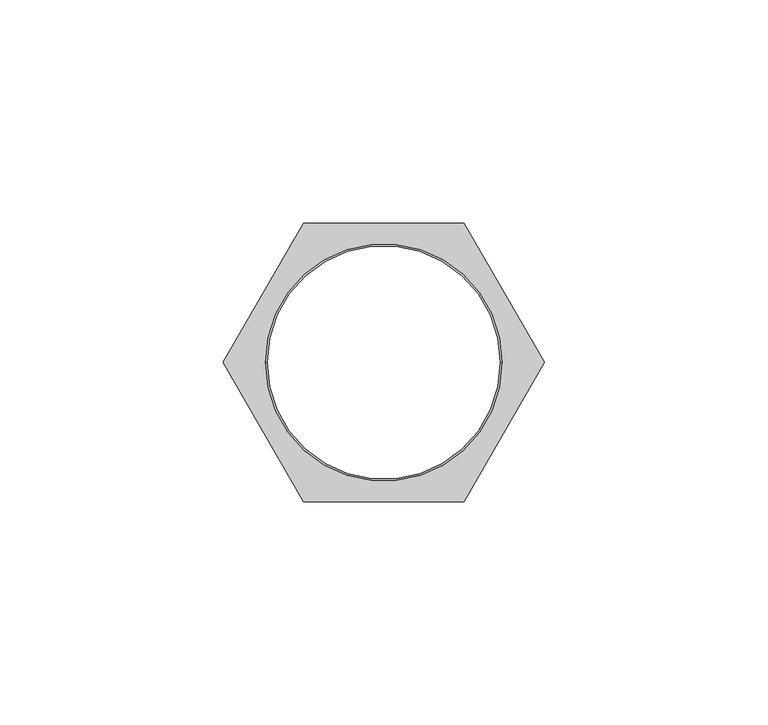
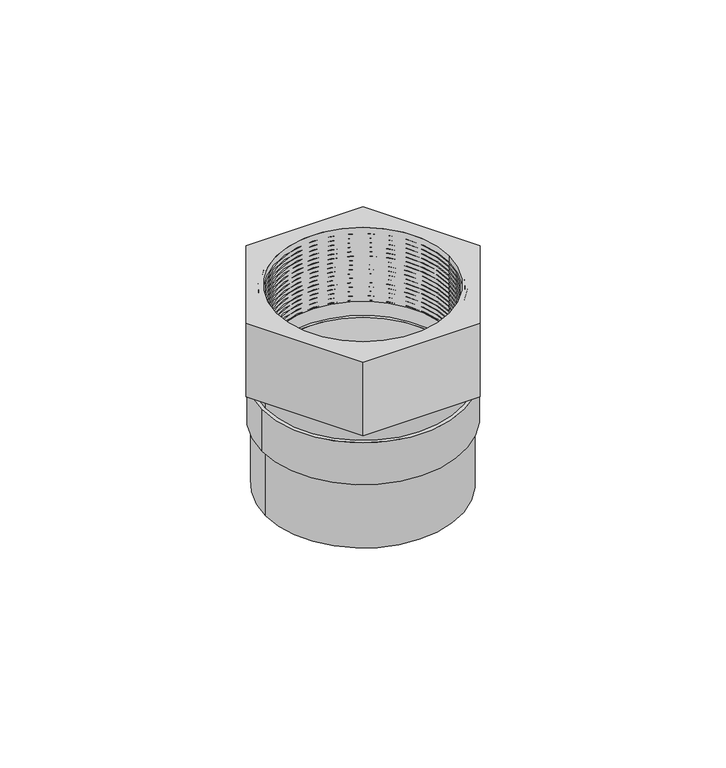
"""IFC4 building model written with IfcOpenShell, lengths in millimetres: valve geometry, Adaptador Hembra con Ins Metalico_Lubrizol_CPVC_FlowGuard_MX 50mm : Adaptador Hembra con Ins Metalico_Lubrizol_CPVC_FlowGuard_MX 50mm."""

from ifc_helpers import new_model, si_unit, point, frame, origin, origin_with_axes, origin_2d, place, context, project, spatial, polyline, circle_curve, trimmed, segment, composite_curve, outline, extrude, source, transform, mapped, element, save
from ifc_brep_helpers import plane_surface, cylinder_surface, revolved_surface, advanced_brep


def valve_15d234eb(model_context):
    return source(origin(), model_context, "Body", "SolidModel", [
        extrude(outline(composite_curve([segment(trimmed(circle_curve(origin_2d(), 30.0), [point((-30.0, 0.0))], [point((30.0, 0.0))], False, "CARTESIAN"), True, "CONTINUOUS"), segment(trimmed(circle_curve(origin_2d(), 30.0), [point((30.0, 0.0))], [point((-30.0, 0.0))], False, "CARTESIAN"), True, "CONTINUOUS")], self_intersect=False), holes=[composite_curve([segment(trimmed(circle_curve(origin_2d(), 28.1568136), [point((-28.1568136, 0.0))], [point((28.1568136, 0.0))], True, "CARTESIAN"), True, "CONTINUOUS"), segment(trimmed(circle_curve(origin_2d(), 28.1568136), [point((28.1568136, 0.0))], [point((-28.1568136, 0.0))], True, "CARTESIAN"), True, "CONTINUOUS")], self_intersect=False)]), frame((0.0, 0.0, 34.9963794), z_axis=(0.0, 0.0, 1.0), x_axis=(1.0, 0.0, 0.0)), (0.0, 0.0, 1.0), 5.7511151),
        extrude(outline(polyline([(-18.0055192, -31.1864741), (-36.0110385, 0.0), (-18.0055192, 31.1864741), (18.0055192, 31.1864741), (36.0110385, 0.0), (18.0055192, -31.1864741), (-18.0055192, -31.1864741)]), holes=[composite_curve([segment(trimmed(circle_curve(origin_2d(), 26.5398145), [point((-26.5398145, 0.0))], [point((26.5398145, 0.0))], True, "CARTESIAN"), True, "CONTINUOUS"), segment(trimmed(circle_curve(origin_2d(), 26.5398145), [point((26.5398145, 0.0))], [point((-26.5398145, 0.0))], True, "CARTESIAN"), True, "CONTINUOUS")], self_intersect=False)]), frame((0.0, 0.0, 40.7474945), z_axis=(0.0, 0.0, 1.0), x_axis=(1.0, 0.0, 0.0)), (0.0, 0.0, 1.0), 23.9905818),
        extrude(outline(composite_curve([segment(trimmed(circle_curve(origin_2d(), 31.0764537), [point((-31.0764537, 0.0))], [point((31.0764537, 0.0))], False, "CARTESIAN"), True, "CONTINUOUS"), segment(trimmed(circle_curve(origin_2d(), 31.0764537), [point((31.0764537, 0.0))], [point((-31.0764537, 0.0))], False, "CARTESIAN"), True, "CONTINUOUS")], self_intersect=False), holes=[composite_curve([segment(trimmed(circle_curve(origin_2d(), 27.2386154), [point((-27.2386154, 0.0))], [point((27.2386154, 0.0))], True, "CARTESIAN"), True, "CONTINUOUS"), segment(trimmed(circle_curve(origin_2d(), 27.2386154), [point((27.2386154, 0.0))], [point((-27.2386154, 0.0))], True, "CARTESIAN"), True, "CONTINUOUS")], self_intersect=False)]), frame((0.0, 0.0, 21.3813002), z_axis=(0.0, 0.0, 1.0), x_axis=(1.0, 0.0, 0.0)), (0.0, 0.0, 1.0), 13.6150792),
        advanced_brep(
        [(28.0854831, 0.0, 40.7474945), (-28.0854831, 0.0, 40.7474945), (-28.0854831, 0.0, 64.7297988), (28.0854831, 0.0, 64.7297988), (27.1159587, 0.0, 40.7474945), (-27.1159587, 0.0, 40.7474945), (26.1709662, 0.0, 41.4091853), (-26.1709662, 0.0, 41.4091853), (27.1717655, 0.0, 42.1099525), (-27.1717655, 0.0, 42.1099525), (26.1709662, 0.0, 42.8107197), (-26.1709662, 0.0, 42.8107197), (27.2386154, 0.0, 43.5582958), (-27.2386154, 0.0, 43.5582958), (26.1709662, 0.0, 44.3058718), (-26.1709662, 0.0, 44.3058718), (27.1717655, 0.0, 45.006639), (-27.1717655, 0.0, 45.006639), (26.1709662, 0.0, 45.7074062), (-26.1709662, 0.0, 45.7074062), (27.1717655, 0.0, 46.4081734), (-27.1717655, 0.0, 46.4081734), (26.1709662, 0.0, 47.1089406), (-26.1709662, 0.0, 47.1089406), (27.2386154, 0.0, 47.8565167), (-27.2386154, 0.0, 47.8565167), (26.1709662, 0.0, 48.6040927), (-26.1709662, 0.0, 48.6040927), (27.1717655, 0.0, 49.3048599), (-27.1717655, 0.0, 49.3048599), (26.1709662, 0.0, 50.0056271), (-26.1709662, 0.0, 50.0056271), (27.1717655, 0.0, 50.7063943), (-27.1717655, 0.0, 50.7063943), (26.1709662, 0.0, 51.4071616), (-26.1709662, 0.0, 51.4071616), (27.2051905, 0.0, 52.1313332), (-27.2051905, 0.0, 52.1313332), (26.1709662, 0.0, 52.8555048), (-26.1709662, 0.0, 52.8555048), (27.2051905, 0.0, 53.5796764), (-27.2051905, 0.0, 53.5796764), (26.1709662, 0.0, 54.303848), (-26.1709662, 0.0, 54.303848), (27.2051905, 0.0, 55.0280197), (-27.2051905, 0.0, 55.0280197), (26.1709662, 0.0, 55.7521913), (-26.1709662, 0.0, 55.7521913), (27.2051905, 0.0, 56.4763629), (-27.2051905, 0.0, 56.4763629), (26.1709662, 0.0, 57.2005345), (-26.1709662, 0.0, 57.2005345), (27.2051905, 0.0, 57.9247062), (-27.2051905, 0.0, 57.9247062), (26.1709662, 0.0, 58.6488778), (-26.1709662, 0.0, 58.6488778), (27.2051905, 0.0, 59.3730494), (-27.2051905, 0.0, 59.3730494), (26.1709662, 0.0, 60.097221), (-26.1709662, 0.0, 60.097221), (27.2051905, 0.0, 60.8213926), (-27.2051905, 0.0, 60.8213926), (26.1709662, 0.0, 61.5455643), (-26.1709662, 0.0, 61.5455643), (27.2051905, 0.0, 62.2697359), (-27.2051905, 0.0, 62.2697359), (26.1709662, 0.0, 62.9939075), (-26.1709662, 0.0, 62.9939075), (27.2346789, 0.0, 63.7387271), (-27.2346789, 0.0, 63.7387271), (27.2346789, 0.0, 64.7297988), (-27.2346789, 0.0, 64.7297988)],
        [
            (0, 1, circle_curve(frame((0.0, 0.0, 40.7474945), z_axis=(0.0, 0.0, 1.0), x_axis=(-1.0, 0.0, 0.0)), 28.0854831)),
            (1, 2),
            (2, 3, circle_curve(frame((0.0, 0.0, 64.7297988), z_axis=(0.0, 0.0, -1.0), x_axis=(-1.0, 0.0, 0.0)), 28.0854831)),
            (3, 0),
            (1, 0, circle_curve(frame((0.0, 0.0, 40.7474945), z_axis=(0.0, 0.0, 1.0), x_axis=(-1.0, 0.0, 0.0)), 28.0854831)),
            (3, 2, circle_curve(frame((0.0, 0.0, 64.7297988), z_axis=(0.0, 0.0, -1.0), x_axis=(-1.0, 0.0, 0.0)), 28.0854831)),
            (4, 5, circle_curve(frame((0.0, 0.0, 40.7474945), z_axis=(0.0, 0.0, 1.0), x_axis=(-1.0, 0.0, 0.0)), 27.1159587)),
            (5, 1),
            (0, 4),
            (5, 4, circle_curve(frame((0.0, 0.0, 40.7474945), z_axis=(0.0, 0.0, 1.0), x_axis=(-1.0, 0.0, 0.0)), 27.1159587)),
            (6, 7, circle_curve(frame((0.0, 0.0, 41.4091853), z_axis=(0.0, 0.0, 1.0), x_axis=(-1.0, 0.0, 0.0)), 26.1709662)),
            (7, 5),
            (4, 6),
            (7, 6, circle_curve(frame((0.0, 0.0, 41.4091853), z_axis=(0.0, 0.0, 1.0), x_axis=(-1.0, 0.0, 0.0)), 26.1709662)),
            (8, 9, circle_curve(frame((0.0, 0.0, 42.1099525), z_axis=(0.0, 0.0, 1.0), x_axis=(-1.0, 0.0, 0.0)), 27.1717655)),
            (9, 7),
            (6, 8),
            (9, 8, circle_curve(frame((0.0, 0.0, 42.1099525), z_axis=(0.0, 0.0, 1.0), x_axis=(-1.0, 0.0, 0.0)), 27.1717655)),
            (10, 11, circle_curve(frame((0.0, 0.0, 42.8107197), z_axis=(0.0, 0.0, 1.0), x_axis=(-1.0, 0.0, 0.0)), 26.1709662)),
            (11, 9),
            (8, 10),
            (11, 10, circle_curve(frame((0.0, 0.0, 42.8107197), z_axis=(0.0, 0.0, 1.0), x_axis=(-1.0, 0.0, 0.0)), 26.1709662)),
            (12, 13, circle_curve(frame((0.0, 0.0, 43.5582958), z_axis=(0.0, 0.0, 1.0), x_axis=(-1.0, 0.0, 0.0)), 27.2386154)),
            (13, 11),
            (10, 12),
            (13, 12, circle_curve(frame((0.0, 0.0, 43.5582958), z_axis=(0.0, 0.0, 1.0), x_axis=(-1.0, 0.0, 0.0)), 27.2386154)),
            (14, 15, circle_curve(frame((0.0, 0.0, 44.3058718), z_axis=(0.0, 0.0, 1.0), x_axis=(-1.0, 0.0, 0.0)), 26.1709662)),
            (15, 13),
            (12, 14),
            (15, 14, circle_curve(frame((0.0, 0.0, 44.3058718), z_axis=(0.0, 0.0, 1.0), x_axis=(-1.0, 0.0, 0.0)), 26.1709662)),
            (16, 17, circle_curve(frame((0.0, 0.0, 45.006639), z_axis=(0.0, 0.0, 1.0), x_axis=(-1.0, 0.0, 0.0)), 27.1717655)),
            (17, 15),
            (14, 16),
            (17, 16, circle_curve(frame((0.0, 0.0, 45.006639), z_axis=(0.0, 0.0, 1.0), x_axis=(-1.0, 0.0, 0.0)), 27.1717655)),
            (18, 19, circle_curve(frame((0.0, 0.0, 45.7074062), z_axis=(0.0, 0.0, 1.0), x_axis=(-1.0, 0.0, 0.0)), 26.1709662)),
            (19, 17),
            (16, 18),
            (19, 18, circle_curve(frame((0.0, 0.0, 45.7074062), z_axis=(0.0, 0.0, 1.0), x_axis=(-1.0, 0.0, 0.0)), 26.1709662)),
            (20, 21, circle_curve(frame((0.0, 0.0, 46.4081734), z_axis=(0.0, 0.0, 1.0), x_axis=(-1.0, 0.0, 0.0)), 27.1717655)),
            (21, 19),
            (18, 20),
            (21, 20, circle_curve(frame((0.0, 0.0, 46.4081734), z_axis=(0.0, 0.0, 1.0), x_axis=(-1.0, 0.0, 0.0)), 27.1717655)),
            (22, 23, circle_curve(frame((0.0, 0.0, 47.1089406), z_axis=(0.0, 0.0, 1.0), x_axis=(-1.0, 0.0, 0.0)), 26.1709662)),
            (23, 21),
            (20, 22),
            (23, 22, circle_curve(frame((0.0, 0.0, 47.1089406), z_axis=(0.0, 0.0, 1.0), x_axis=(-1.0, 0.0, 0.0)), 26.1709662)),
            (24, 25, circle_curve(frame((0.0, 0.0, 47.8565167), z_axis=(0.0, 0.0, 1.0), x_axis=(-1.0, 0.0, 0.0)), 27.2386154)),
            (25, 23),
            (22, 24),
            (25, 24, circle_curve(frame((0.0, 0.0, 47.8565167), z_axis=(0.0, 0.0, 1.0), x_axis=(-1.0, 0.0, 0.0)), 27.2386154)),
            (26, 27, circle_curve(frame((0.0, 0.0, 48.6040927), z_axis=(0.0, 0.0, 1.0), x_axis=(-1.0, 0.0, 0.0)), 26.1709662)),
            (27, 25),
            (24, 26),
            (27, 26, circle_curve(frame((0.0, 0.0, 48.6040927), z_axis=(0.0, 0.0, 1.0), x_axis=(-1.0, 0.0, 0.0)), 26.1709662)),
            (28, 29, circle_curve(frame((0.0, 0.0, 49.3048599), z_axis=(0.0, 0.0, 1.0), x_axis=(-1.0, 0.0, 0.0)), 27.1717655)),
            (29, 27),
            (26, 28),
            (29, 28, circle_curve(frame((0.0, 0.0, 49.3048599), z_axis=(0.0, 0.0, 1.0), x_axis=(-1.0, 0.0, 0.0)), 27.1717655)),
            (30, 31, circle_curve(frame((0.0, 0.0, 50.0056271), z_axis=(0.0, 0.0, 1.0), x_axis=(-1.0, 0.0, 0.0)), 26.1709662)),
            (31, 29),
            (28, 30),
            (31, 30, circle_curve(frame((0.0, 0.0, 50.0056271), z_axis=(0.0, 0.0, 1.0), x_axis=(-1.0, 0.0, 0.0)), 26.1709662)),
            (32, 33, circle_curve(frame((0.0, 0.0, 50.7063943), z_axis=(0.0, 0.0, 1.0), x_axis=(-1.0, 0.0, 0.0)), 27.1717655)),
            (33, 31),
            (30, 32),
            (33, 32, circle_curve(frame((0.0, 0.0, 50.7063943), z_axis=(0.0, 0.0, 1.0), x_axis=(-1.0, 0.0, 0.0)), 27.1717655)),
            (34, 35, circle_curve(frame((0.0, 0.0, 51.4071616), z_axis=(0.0, 0.0, 1.0), x_axis=(-1.0, 0.0, 0.0)), 26.1709662)),
            (35, 33),
            (32, 34),
            (35, 34, circle_curve(frame((0.0, 0.0, 51.4071616), z_axis=(0.0, 0.0, 1.0), x_axis=(-1.0, 0.0, 0.0)), 26.1709662)),
            (36, 37, circle_curve(frame((0.0, 0.0, 52.1313332), z_axis=(0.0, 0.0, 1.0), x_axis=(-1.0, 0.0, 0.0)), 27.2051905)),
            (37, 35),
            (34, 36),
            (37, 36, circle_curve(frame((0.0, 0.0, 52.1313332), z_axis=(0.0, 0.0, 1.0), x_axis=(-1.0, 0.0, 0.0)), 27.2051905)),
            (38, 39, circle_curve(frame((0.0, 0.0, 52.8555048), z_axis=(0.0, 0.0, 1.0), x_axis=(-1.0, 0.0, 0.0)), 26.1709662)),
            (39, 37),
            (36, 38),
            (39, 38, circle_curve(frame((0.0, 0.0, 52.8555048), z_axis=(0.0, 0.0, 1.0), x_axis=(-1.0, 0.0, 0.0)), 26.1709662)),
            (40, 41, circle_curve(frame((0.0, 0.0, 53.5796764), z_axis=(0.0, 0.0, 1.0), x_axis=(-1.0, 0.0, 0.0)), 27.2051905)),
            (41, 39),
            (38, 40),
            (41, 40, circle_curve(frame((0.0, 0.0, 53.5796764), z_axis=(0.0, 0.0, 1.0), x_axis=(-1.0, 0.0, 0.0)), 27.2051905)),
            (42, 43, circle_curve(frame((0.0, 0.0, 54.303848), z_axis=(0.0, 0.0, 1.0), x_axis=(-1.0, 0.0, 0.0)), 26.1709662)),
            (43, 41),
            (40, 42),
            (43, 42, circle_curve(frame((0.0, 0.0, 54.303848), z_axis=(0.0, 0.0, 1.0), x_axis=(-1.0, 0.0, 0.0)), 26.1709662)),
            (44, 45, circle_curve(frame((0.0, 0.0, 55.0280197), z_axis=(0.0, 0.0, 1.0), x_axis=(-1.0, 0.0, 0.0)), 27.2051905)),
            (45, 43),
            (42, 44),
            (45, 44, circle_curve(frame((0.0, 0.0, 55.0280197), z_axis=(0.0, 0.0, 1.0), x_axis=(-1.0, 0.0, 0.0)), 27.2051905)),
            (46, 47, circle_curve(frame((0.0, 0.0, 55.7521913), z_axis=(0.0, 0.0, 1.0), x_axis=(-1.0, 0.0, 0.0)), 26.1709662)),
            (47, 45),
            (44, 46),
            (47, 46, circle_curve(frame((0.0, 0.0, 55.7521913), z_axis=(0.0, 0.0, 1.0), x_axis=(-1.0, 0.0, 0.0)), 26.1709662)),
            (48, 49, circle_curve(frame((0.0, 0.0, 56.4763629), z_axis=(0.0, 0.0, 1.0), x_axis=(-1.0, 0.0, 0.0)), 27.2051905)),
            (49, 47),
            (46, 48),
            (49, 48, circle_curve(frame((0.0, 0.0, 56.4763629), z_axis=(0.0, 0.0, 1.0), x_axis=(-1.0, 0.0, 0.0)), 27.2051905)),
            (50, 51, circle_curve(frame((0.0, 0.0, 57.2005345), z_axis=(0.0, 0.0, 1.0), x_axis=(-1.0, 0.0, 0.0)), 26.1709662)),
            (51, 49),
            (48, 50),
            (51, 50, circle_curve(frame((0.0, 0.0, 57.2005345), z_axis=(0.0, 0.0, 1.0), x_axis=(-1.0, 0.0, 0.0)), 26.1709662)),
            (52, 53, circle_curve(frame((0.0, 0.0, 57.9247062), z_axis=(0.0, 0.0, 1.0), x_axis=(-1.0, 0.0, 0.0)), 27.2051905)),
            (53, 51),
            (50, 52),
            (53, 52, circle_curve(frame((0.0, 0.0, 57.9247062), z_axis=(0.0, 0.0, 1.0), x_axis=(-1.0, 0.0, 0.0)), 27.2051905)),
            (54, 55, circle_curve(frame((0.0, 0.0, 58.6488778), z_axis=(0.0, 0.0, 1.0), x_axis=(-1.0, 0.0, 0.0)), 26.1709662)),
            (55, 53),
            (52, 54),
            (55, 54, circle_curve(frame((0.0, 0.0, 58.6488778), z_axis=(0.0, 0.0, 1.0), x_axis=(-1.0, 0.0, 0.0)), 26.1709662)),
            (56, 57, circle_curve(frame((0.0, 0.0, 59.3730494), z_axis=(0.0, 0.0, 1.0), x_axis=(-1.0, 0.0, 0.0)), 27.2051905)),
            (57, 55),
            (54, 56),
            (57, 56, circle_curve(frame((0.0, 0.0, 59.3730494), z_axis=(0.0, 0.0, 1.0), x_axis=(-1.0, 0.0, 0.0)), 27.2051905)),
            (58, 59, circle_curve(frame((0.0, 0.0, 60.097221), z_axis=(0.0, 0.0, 1.0), x_axis=(-1.0, 0.0, 0.0)), 26.1709662)),
            (59, 57),
            (56, 58),
            (59, 58, circle_curve(frame((0.0, 0.0, 60.097221), z_axis=(0.0, 0.0, 1.0), x_axis=(-1.0, 0.0, 0.0)), 26.1709662)),
            (60, 61, circle_curve(frame((0.0, 0.0, 60.8213926), z_axis=(0.0, 0.0, 1.0), x_axis=(-1.0, 0.0, 0.0)), 27.2051905)),
            (61, 59),
            (58, 60),
            (61, 60, circle_curve(frame((0.0, 0.0, 60.8213926), z_axis=(0.0, 0.0, 1.0), x_axis=(-1.0, 0.0, 0.0)), 27.2051905)),
            (62, 63, circle_curve(frame((0.0, 0.0, 61.5455643), z_axis=(0.0, 0.0, 1.0), x_axis=(-1.0, 0.0, 0.0)), 26.1709662)),
            (63, 61),
            (60, 62),
            (63, 62, circle_curve(frame((0.0, 0.0, 61.5455643), z_axis=(0.0, 0.0, 1.0), x_axis=(-1.0, 0.0, 0.0)), 26.1709662)),
            (64, 65, circle_curve(frame((0.0, 0.0, 62.2697359), z_axis=(0.0, 0.0, 1.0), x_axis=(-1.0, 0.0, 0.0)), 27.2051905)),
            (65, 63),
            (62, 64),
            (65, 64, circle_curve(frame((0.0, 0.0, 62.2697359), z_axis=(0.0, 0.0, 1.0), x_axis=(-1.0, 0.0, 0.0)), 27.2051905)),
            (66, 67, circle_curve(frame((0.0, 0.0, 62.9939075), z_axis=(0.0, 0.0, 1.0), x_axis=(-1.0, 0.0, 0.0)), 26.1709662)),
            (67, 65),
            (64, 66),
            (67, 66, circle_curve(frame((0.0, 0.0, 62.9939075), z_axis=(0.0, 0.0, 1.0), x_axis=(-1.0, 0.0, 0.0)), 26.1709662)),
            (68, 69, circle_curve(frame((0.0, 0.0, 63.7387271), z_axis=(0.0, 0.0, 1.0), x_axis=(-1.0, 0.0, 0.0)), 27.2346789)),
            (69, 67),
            (66, 68),
            (69, 68, circle_curve(frame((0.0, 0.0, 63.7387271), z_axis=(0.0, 0.0, 1.0), x_axis=(-1.0, 0.0, 0.0)), 27.2346789)),
            (70, 71, circle_curve(frame((0.0, 0.0, 64.7297988), z_axis=(0.0, 0.0, 1.0), x_axis=(-1.0, 0.0, 0.0)), 27.2346789)),
            (71, 69),
            (68, 70),
            (71, 70, circle_curve(frame((0.0, 0.0, 64.7297988), z_axis=(0.0, 0.0, 1.0), x_axis=(-1.0, 0.0, 0.0)), 27.2346789)),
            (2, 71),
            (70, 3),
        ],
        [
            cylinder_surface(frame((0.0, 0.0, 59.488787), z_axis=(0.0, 0.0, -1.0), x_axis=(-1.0, 0.0, 0.0)), 28.0854831),
            plane_surface(frame((0.0, 0.0, 40.7474945), z_axis=(0.0, 0.0, -1.0), x_axis=(-1.0, 0.0, 0.0))),
            revolved_surface(polyline([(-27.1159587, 0.0, 40.7474945), (-26.1709662, 0.0, 41.4091853)]), (0.0, 0.0, 59.488787), (0.0, 0.0, -1.0)),
            revolved_surface(polyline([(-26.1709662, 0.0, 41.4091853), (-27.1717655, 0.0, 42.1099525)]), (0.0, 0.0, 59.488787), (0.0, 0.0, -1.0)),
            revolved_surface(polyline([(-27.1717655, 0.0, 42.1099525), (-26.1709662, 0.0, 42.8107197)]), (0.0, 0.0, 59.488787), (0.0, 0.0, -1.0)),
            revolved_surface(polyline([(-26.1709662, 0.0, 42.8107197), (-27.2386154, 0.0, 43.5582958)]), (0.0, 0.0, 59.488787), (0.0, 0.0, -1.0)),
            revolved_surface(polyline([(-27.2386154, 0.0, 43.5582958), (-26.1709662, 0.0, 44.3058718)]), (0.0, 0.0, 59.488787), (0.0, 0.0, -1.0)),
            revolved_surface(polyline([(-26.1709662, 0.0, 44.3058718), (-27.1717655, 0.0, 45.006639)]), (0.0, 0.0, 59.488787), (0.0, 0.0, -1.0)),
            revolved_surface(polyline([(-27.1717655, 0.0, 45.006639), (-26.1709662, 0.0, 45.7074062)]), (0.0, 0.0, 59.488787), (0.0, 0.0, -1.0)),
            revolved_surface(polyline([(-26.1709662, 0.0, 45.7074062), (-27.1717655, 0.0, 46.4081734)]), (0.0, 0.0, 59.488787), (0.0, 0.0, -1.0)),
            revolved_surface(polyline([(-27.1717655, 0.0, 46.4081734), (-26.1709662, 0.0, 47.1089406)]), (0.0, 0.0, 59.488787), (0.0, 0.0, -1.0)),
            revolved_surface(polyline([(-26.1709662, 0.0, 47.1089406), (-27.2386154, 0.0, 47.8565167)]), (0.0, 0.0, 59.488787), (0.0, 0.0, -1.0)),
            revolved_surface(polyline([(-27.2386154, 0.0, 47.8565167), (-26.1709662, 0.0, 48.6040927)]), (0.0, 0.0, 59.488787), (0.0, 0.0, -1.0)),
            revolved_surface(polyline([(-26.1709662, 0.0, 48.6040927), (-27.1717655, 0.0, 49.3048599)]), (0.0, 0.0, 59.488787), (0.0, 0.0, -1.0)),
            revolved_surface(polyline([(-27.1717655, 0.0, 49.3048599), (-26.1709662, 0.0, 50.0056271)]), (0.0, 0.0, 59.488787), (0.0, 0.0, -1.0)),
            revolved_surface(polyline([(-26.1709662, 0.0, 50.0056271), (-27.1717655, 0.0, 50.7063943)]), (0.0, 0.0, 59.488787), (0.0, 0.0, -1.0)),
            revolved_surface(polyline([(-27.1717655, 0.0, 50.7063943), (-26.1709662, 0.0, 51.4071616)]), (0.0, 0.0, 59.488787), (0.0, 0.0, -1.0)),
            revolved_surface(polyline([(-26.1709662, 0.0, 51.4071616), (-27.2051905, 0.0, 52.1313332)]), (0.0, 0.0, 59.488787), (0.0, 0.0, -1.0)),
            revolved_surface(polyline([(-27.2051905, 0.0, 52.1313332), (-26.1709662, 0.0, 52.8555048)]), (0.0, 0.0, 59.488787), (0.0, 0.0, -1.0)),
            revolved_surface(polyline([(-26.1709662, 0.0, 52.8555048), (-27.2051905, 0.0, 53.5796764)]), (0.0, 0.0, 59.488787), (0.0, 0.0, -1.0)),
            revolved_surface(polyline([(-27.2051905, 0.0, 53.5796764), (-26.1709662, 0.0, 54.303848)]), (0.0, 0.0, 59.488787), (0.0, 0.0, -1.0)),
            revolved_surface(polyline([(-26.1709662, 0.0, 54.303848), (-27.2051905, 0.0, 55.0280197)]), (0.0, 0.0, 59.488787), (0.0, 0.0, -1.0)),
            revolved_surface(polyline([(-27.2051905, 0.0, 55.0280197), (-26.1709662, 0.0, 55.7521913)]), (0.0, 0.0, 59.488787), (0.0, 0.0, -1.0)),
            revolved_surface(polyline([(-26.1709662, 0.0, 55.7521913), (-27.2051905, 0.0, 56.4763629)]), (0.0, 0.0, 59.488787), (0.0, 0.0, -1.0)),
            revolved_surface(polyline([(-27.2051905, 0.0, 56.4763629), (-26.1709662, 0.0, 57.2005345)]), (0.0, 0.0, 59.488787), (0.0, 0.0, -1.0)),
            revolved_surface(polyline([(-26.1709662, 0.0, 57.2005345), (-27.2051905, 0.0, 57.9247062)]), (0.0, 0.0, 59.488787), (0.0, 0.0, -1.0)),
            revolved_surface(polyline([(-27.2051905, 0.0, 57.9247062), (-26.1709662, 0.0, 58.6488778)]), (0.0, 0.0, 59.488787), (0.0, 0.0, -1.0)),
            revolved_surface(polyline([(-26.1709662, 0.0, 58.6488778), (-27.2051905, 0.0, 59.3730494)]), (0.0, 0.0, 59.488787), (0.0, 0.0, -1.0)),
            revolved_surface(polyline([(-27.2051905, 0.0, 59.3730494), (-26.1709662, 0.0, 60.097221)]), (0.0, 0.0, 59.488787), (0.0, 0.0, -1.0)),
            revolved_surface(polyline([(-26.1709662, 0.0, 60.097221), (-27.2051905, 0.0, 60.8213926)]), (0.0, 0.0, 59.488787), (0.0, 0.0, -1.0)),
            revolved_surface(polyline([(-27.2051905, 0.0, 60.8213926), (-26.1709662, 0.0, 61.5455643)]), (0.0, 0.0, 59.488787), (0.0, 0.0, -1.0)),
            revolved_surface(polyline([(-26.1709662, 0.0, 61.5455643), (-27.2051905, 0.0, 62.2697359)]), (0.0, 0.0, 59.488787), (0.0, 0.0, -1.0)),
            revolved_surface(polyline([(-27.2051905, 0.0, 62.2697359), (-26.1709662, 0.0, 62.9939075)]), (0.0, 0.0, 59.488787), (0.0, 0.0, -1.0)),
            revolved_surface(polyline([(-26.1709662, 0.0, 62.9939075), (-27.2346789, 0.0, 63.7387271)]), (0.0, 0.0, 59.488787), (0.0, 0.0, -1.0)),
            revolved_surface(polyline([(-27.2346789, 0.0, 63.7387271), (-27.2346789, 0.0, 64.7297988)]), (0.0, 0.0, 59.488787), (0.0, 0.0, -1.0)),
            plane_surface(frame((0.0, 0.0, 64.7297988), z_axis=(0.0, 0.0, 1.0), x_axis=(-1.0, 0.0, 0.0))),
        ],
        [
            (0, [[1, 2, 3, 4]]),
            (0, [[5, -4, 6, -2]]),
            (1, [[7, 8, -1, 9]]),
            (1, [[10, -9, -5, -8]]),
            (2, [[11, 12, -7, 13]]),
            (2, [[14, -13, -10, -12]]),
            (3, [[15, 16, -11, 17]]),
            (3, [[18, -17, -14, -16]]),
            (4, [[19, 20, -15, 21]]),
            (4, [[22, -21, -18, -20]]),
            (5, [[23, 24, -19, 25]]),
            (5, [[26, -25, -22, -24]]),
            (6, [[27, 28, -23, 29]]),
            (6, [[30, -29, -26, -28]]),
            (7, [[31, 32, -27, 33]]),
            (7, [[34, -33, -30, -32]]),
            (8, [[35, 36, -31, 37]]),
            (8, [[38, -37, -34, -36]]),
            (9, [[39, 40, -35, 41]]),
            (9, [[42, -41, -38, -40]]),
            (10, [[43, 44, -39, 45]]),
            (10, [[46, -45, -42, -44]]),
            (11, [[47, 48, -43, 49]]),
            (11, [[50, -49, -46, -48]]),
            (12, [[51, 52, -47, 53]]),
            (12, [[54, -53, -50, -52]]),
            (13, [[55, 56, -51, 57]]),
            (13, [[58, -57, -54, -56]]),
            (14, [[59, 60, -55, 61]]),
            (14, [[62, -61, -58, -60]]),
            (15, [[63, 64, -59, 65]]),
            (15, [[66, -65, -62, -64]]),
            (16, [[67, 68, -63, 69]]),
            (16, [[70, -69, -66, -68]]),
            (17, [[71, 72, -67, 73]]),
            (17, [[74, -73, -70, -72]]),
            (18, [[75, 76, -71, 77]]),
            (18, [[78, -77, -74, -76]]),
            (19, [[79, 80, -75, 81]]),
            (19, [[82, -81, -78, -80]]),
            (20, [[83, 84, -79, 85]]),
            (20, [[86, -85, -82, -84]]),
            (21, [[87, 88, -83, 89]]),
            (21, [[90, -89, -86, -88]]),
            (22, [[91, 92, -87, 93]]),
            (22, [[94, -93, -90, -92]]),
            (23, [[95, 96, -91, 97]]),
            (23, [[98, -97, -94, -96]]),
            (24, [[99, 100, -95, 101]]),
            (24, [[102, -101, -98, -100]]),
            (25, [[103, 104, -99, 105]]),
            (25, [[106, -105, -102, -104]]),
            (26, [[107, 108, -103, 109]]),
            (26, [[110, -109, -106, -108]]),
            (27, [[111, 112, -107, 113]]),
            (27, [[114, -113, -110, -112]]),
            (28, [[115, 116, -111, 117]]),
            (28, [[118, -117, -114, -116]]),
            (29, [[119, 120, -115, 121]]),
            (29, [[122, -121, -118, -120]]),
            (30, [[123, 124, -119, 125]]),
            (30, [[126, -125, -122, -124]]),
            (31, [[127, 128, -123, 129]]),
            (31, [[130, -129, -126, -128]]),
            (32, [[131, 132, -127, 133]]),
            (32, [[134, -133, -130, -132]]),
            (33, [[135, 136, -131, 137]]),
            (33, [[138, -137, -134, -136]]),
            (34, [[139, 140, -135, 141]]),
            (34, [[142, -141, -138, -140]]),
            (35, [[-3, 143, -139, 144]]),
            (35, [[-6, -144, -142, -143]]),
        ],
    ),
        extrude(outline(composite_curve([segment(trimmed(circle_curve(origin_2d(), 30.0), [point((-30.0, 0.0))], [point((30.0, 0.0))], False, "CARTESIAN"), True, "CONTINUOUS"), segment(trimmed(circle_curve(origin_2d(), 30.0), [point((30.0, 0.0))], [point((-30.0, 0.0))], False, "CARTESIAN"), True, "CONTINUOUS")], self_intersect=False), holes=[composite_curve([segment(trimmed(circle_curve(origin_2d(), 27.0), [point((-27.0, 0.0))], [point((27.0, 0.0))], True, "CARTESIAN"), True, "CONTINUOUS"), segment(trimmed(circle_curve(origin_2d(), 27.0), [point((27.0, 0.0))], [point((-27.0, 0.0))], True, "CARTESIAN"), True, "CONTINUOUS")], self_intersect=False)]), origin_with_axes(), (0.0, 0.0, 1.0), 34.9963794),
    ])


if __name__ == "__main__":
    model = new_model("IFC4")
    model_context = context("Model", 3, world=origin())
    ifc_project = project(units=[si_unit("LENGTHUNIT", "METRE", prefix="MILLI")], contexts=[model_context])
    site = spatial("IfcSite", under=ifc_project)
    building = spatial("IfcBuilding", under=site)
    placement = place(None, origin())
    valve_shape = valve_15d234eb(model_context)
    element("IfcValve", 1, ObjectType="Adaptador Hembra con Ins Metalico_Lubrizol_CPVC_FlowGuard_MX 50mm : Adaptador Hembra con Ins Metalico_Lubrizol_CPVC_FlowGuard_MX 50mm", at=placement, inside=building, context=model_context, shape_type="MappedRepresentation", body=[
        mapped(valve_shape, transform((0.0, 0.0, 0.0), x_axis=(1.0, 0.0, 0.0), y_axis=(0.0, 1.0, 0.0), z_axis=(0.0, 0.0, 1.0))),
    ])
    save(model, "model.ifc")
